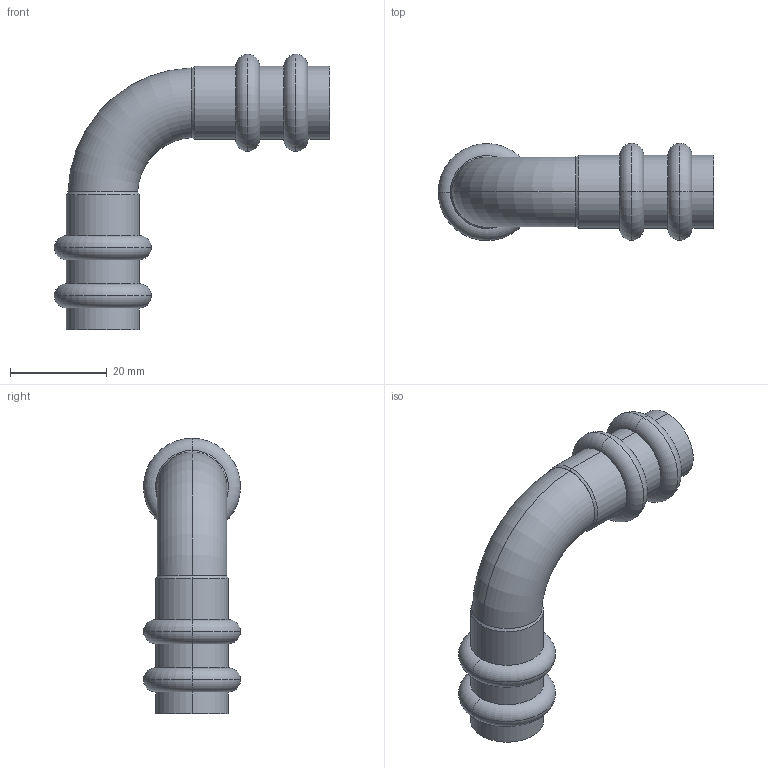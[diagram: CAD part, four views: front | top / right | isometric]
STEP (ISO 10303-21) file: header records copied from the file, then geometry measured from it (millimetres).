
FILE_DESCRIPTION(('starvars output'),'1');
FILE_NAME('cv20240422104907000011780.stp','10:49:07 2024/04/22',('Thomas Industrial Network Germany GmbH'),(' '),'Spatial InterOp 3D',' ',' ');
FILE_SCHEMA(('AUTOMOTIVE_DESIGN { 1 0 10303 214 3 1 1 }'));
Length unit declared in the file: millimetre
Products named in the file (1): 1
Bounding box: 57.05 x 20.1 x 57.05 mm (x, y, z)
Volume: 5753.7 mm3; surface area: 8804.9 mm2
Topology: 1 solids, 1 shells, 62 faces, 124 edges, 72 vertices
Faces by surface type: torus 28, cylinder 20, plane 10, cone 4
Entity records: 2420 total; most frequent: CARTESIAN_POINT 535, DIRECTION 342, ORIENTED_EDGE 248, AXIS2_PLACEMENT_3D 159, EDGE_CURVE 124, CIRCLE 96, EDGE_LOOP 72, VERTEX_POINT 72
